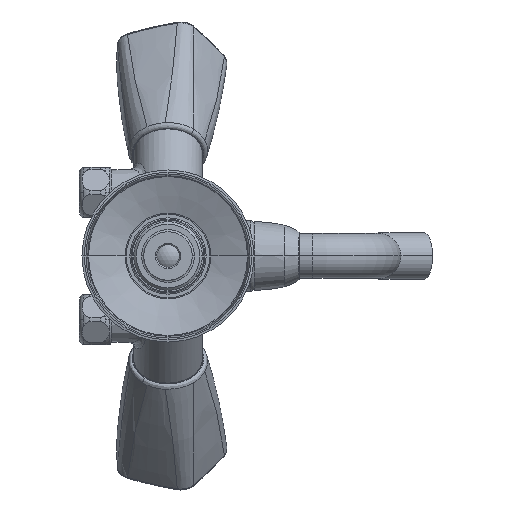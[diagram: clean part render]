
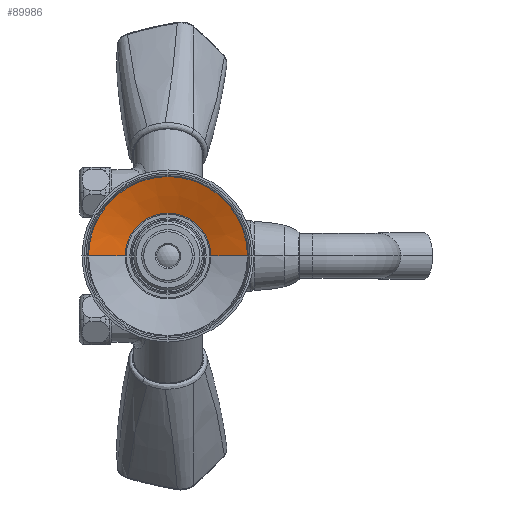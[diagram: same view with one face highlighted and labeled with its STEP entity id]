
A CAD part, left-side view. The second image highlights one B-rep face of the part: STEP entity #89986.
In plain terms, the highlighted conical face has half-angle 70 degrees and reference radius 23.111 mm.
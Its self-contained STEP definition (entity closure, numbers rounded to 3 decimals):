
#89498=CARTESIAN_POINT('',(1.578,0.,0.));
#89499=DIRECTION('',(1.,0.,0.));
#89500=DIRECTION('',(0.,1.,0.));
#89501=AXIS2_PLACEMENT_3D('',#89498,#89499,#89500);
#89513=DIRECTION('',(0.342,0.94,0.));
#89514=VECTOR('',#89513,14.725);
#89515=CARTESIAN_POINT('',(1.578,16.192,0.));
#89516=LINE('',#89515,#89514);
#89517=DIRECTION('',(0.342,-0.94,0.));
#89518=VECTOR('',#89517,14.725);
#89519=CARTESIAN_POINT('',(1.578,-16.192,0.));
#89520=LINE('',#89519,#89518);
#89569=CARTESIAN_POINT('',(6.615,0.,0.));
#89570=DIRECTION('',(1.,0.,0.));
#89571=DIRECTION('',(0.,1.,0.));
#89572=AXIS2_PLACEMENT_3D('',#89569,#89570,#89571);
#89768=CARTESIAN_POINT('',(6.615,30.029,0.));
#89769=CARTESIAN_POINT('',(6.615,-30.029,0.));
#89770=VERTEX_POINT('',#89768);
#89771=VERTEX_POINT('',#89769);
#89776=CARTESIAN_POINT('',(1.578,16.192,0.));
#89777=CARTESIAN_POINT('',(1.578,-16.192,0.));
#89778=VERTEX_POINT('',#89776);
#89779=VERTEX_POINT('',#89777);
#89972=CARTESIAN_POINT('',(4.097,0.,0.));
#89973=DIRECTION('',(1.,0.,0.));
#89974=DIRECTION('',(0.,-1.,0.));
#89975=AXIS2_PLACEMENT_3D('',#89972,#89973,#89974);
#89976=CONICAL_SURFACE('',#89975,23.111,70.);
#89977=ORIENTED_EDGE('',*,*,#89962,.T.);
#89979=ORIENTED_EDGE('',*,*,#89978,.T.);
#89981=ORIENTED_EDGE('',*,*,#89980,.F.);
#89983=ORIENTED_EDGE('',*,*,#89982,.F.);
#89984=EDGE_LOOP('',(#89977,#89979,#89981,#89983));
#89985=FACE_OUTER_BOUND('',#89984,.F.);
#89986=ADVANCED_FACE('',(#89985),#89976,.F.);
#89502=CIRCLE('',#89501,16.192);
#89573=CIRCLE('',#89572,30.029);
#89962=EDGE_CURVE('',#89778,#89779,#89502,.T.);
#89978=EDGE_CURVE('',#89779,#89771,#89520,.T.);
#89980=EDGE_CURVE('',#89770,#89771,#89573,.T.);
#89982=EDGE_CURVE('',#89778,#89770,#89516,.T.);
